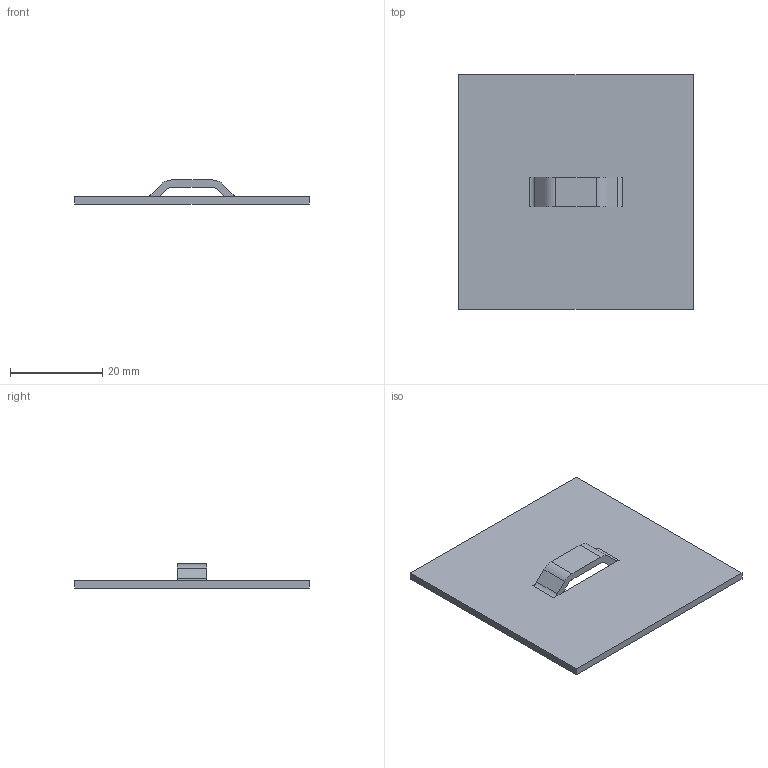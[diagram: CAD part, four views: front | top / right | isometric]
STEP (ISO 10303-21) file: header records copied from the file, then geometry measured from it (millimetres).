
FILE_DESCRIPTION((''),'1');
FILE_NAME('C:/Users/robertnolte/Desktop/WT#410774-10.stp','2012-03-28T17:39:10',(''),(''),'Spatial Interop R21 SP3','Kubotek KeyCreator 2011 V10.5.0 (24766)',' ');
FILE_SCHEMA(('CONFIG_CONTROL_DESIGN'));
Length unit declared in the file: inch
Products named in the file (1): 1
Bounding box: 50.8 x 50.8 x 5.21 mm (x, y, z)
Volume: 4155 mm3; surface area: 5629.9 mm2
Topology: 1 solids, 1 shells, 24 faces, 68 edges, 44 vertices
Faces by surface type: plane 16, cylinder 8
Entity records: 828 total; most frequent: CARTESIAN_POINT 137, ORIENTED_EDGE 136, DIRECTION 134, EDGE_CURVE 68, LINE 52, VECTOR 52, VERTEX_POINT 44, AXIS2_PLACEMENT_3D 41
